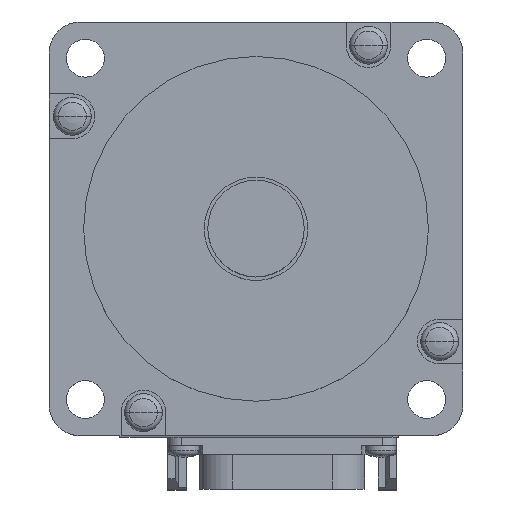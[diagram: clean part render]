
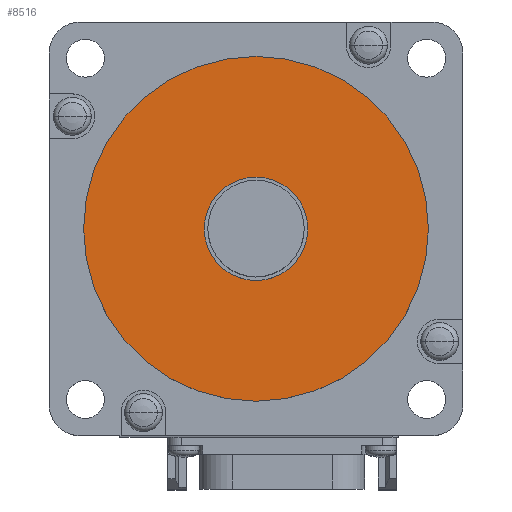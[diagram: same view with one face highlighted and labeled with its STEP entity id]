
A CAD part, top view. The second image highlights one B-rep face of the part: STEP entity #8516.
In plain terms, the highlighted planar face has unit normal (0, 0, 1).
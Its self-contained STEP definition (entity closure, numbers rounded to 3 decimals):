
#2075=CARTESIAN_POINT('',(0.,0.,3.));
#2076=DIRECTION('',(0.,0.,-1.));
#2077=DIRECTION('',(1.,0.,0.));
#2078=AXIS2_PLACEMENT_3D('',#2075,#2076,#2077);
#2080=CARTESIAN_POINT('',(0.,0.,3.));
#2081=DIRECTION('',(0.,0.,-1.));
#2082=DIRECTION('',(-1.,0.,0.));
#2083=AXIS2_PLACEMENT_3D('',#2080,#2081,#2082);
#2085=CARTESIAN_POINT('',(0.,0.,3.));
#2086=DIRECTION('',(0.,0.,1.));
#2087=DIRECTION('',(1.,0.,0.));
#2088=AXIS2_PLACEMENT_3D('',#2085,#2086,#2087);
#2090=CARTESIAN_POINT('',(0.,0.,3.));
#2091=DIRECTION('',(0.,0.,1.));
#2092=DIRECTION('',(-1.,0.,0.));
#2093=AXIS2_PLACEMENT_3D('',#2090,#2091,#2092);
#4642=CARTESIAN_POINT('',(25.,0.,3.));
#4643=VERTEX_POINT('',#4642);
#4644=CARTESIAN_POINT('',(-25.,0.,3.));
#4645=VERTEX_POINT('',#4644);
#5714=CARTESIAN_POINT('',(7.5,0.,3.));
#5715=CARTESIAN_POINT('',(-7.5,0.,3.));
#5716=VERTEX_POINT('',#5714);
#5717=VERTEX_POINT('',#5715);
#8500=CARTESIAN_POINT('',(0.,0.,3.));
#8501=DIRECTION('',(0.,0.,1.));
#8502=DIRECTION('',(1.,0.,0.));
#8503=AXIS2_PLACEMENT_3D('',#8500,#8501,#8502);
#8504=PLANE('',#8503);
#8505=ORIENTED_EDGE('',*,*,#8490,.T.);
#8507=ORIENTED_EDGE('',*,*,#8506,.T.);
#8508=EDGE_LOOP('',(#8505,#8507));
#8509=FACE_OUTER_BOUND('',#8508,.F.);
#8511=ORIENTED_EDGE('',*,*,#8510,.T.);
#8513=ORIENTED_EDGE('',*,*,#8512,.T.);
#8514=EDGE_LOOP('',(#8511,#8513));
#8515=FACE_BOUND('',#8514,.F.);
#8516=ADVANCED_FACE('',(#8509,#8515),#8504,.T.);
#2079=CIRCLE('',#2078,25.);
#2084=CIRCLE('',#2083,25.);
#2089=CIRCLE('',#2088,7.5);
#2094=CIRCLE('',#2093,7.5);
#8490=EDGE_CURVE('',#4643,#4645,#2079,.T.);
#8506=EDGE_CURVE('',#4645,#4643,#2084,.T.);
#8510=EDGE_CURVE('',#5716,#5717,#2089,.T.);
#8512=EDGE_CURVE('',#5717,#5716,#2094,.T.);
